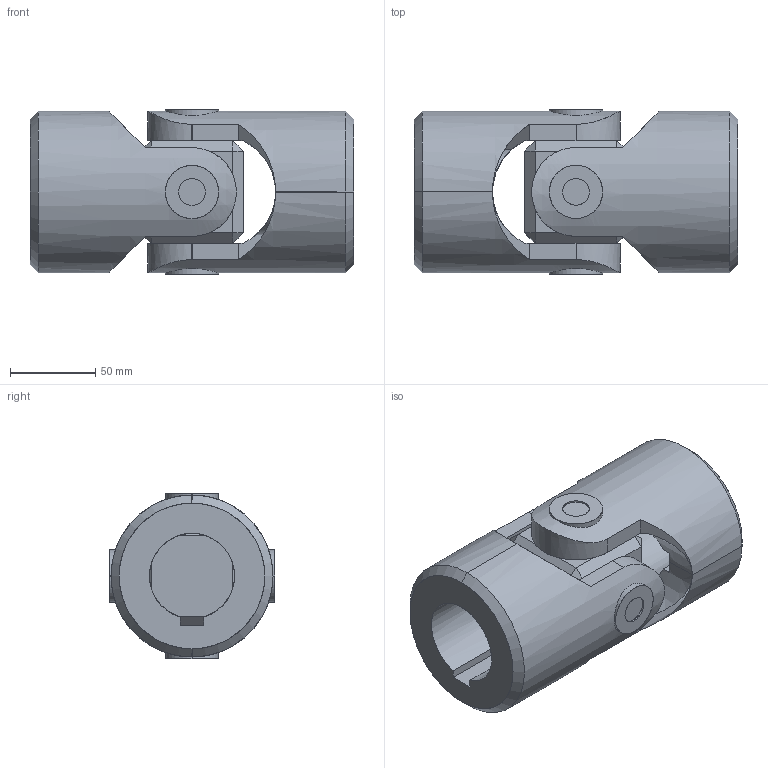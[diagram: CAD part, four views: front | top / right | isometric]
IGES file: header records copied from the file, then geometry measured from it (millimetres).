
Start section: SolidWorks IGES file using analytic representation for surfaces
Global section: file name: C:\Users\IanO\Desktop\R3690_v2\R3690_v2_20231020_IGES\R3690.050-KW.igs; native system: SolidWorks 2019; preprocessor: SolidWorks 2019; author: IanO; date: 231020.152641; units: millimetre
Bounding box: 190 x 96.9 x 96.9 mm (x, y, z)
Surface area: 143570.2 mm2 (no closed solid volume)
Topology: 0 solids, 0 shells, 110 faces, 2956 edges, 2956 vertices
Faces by surface type: bspline 62, revolution 48
